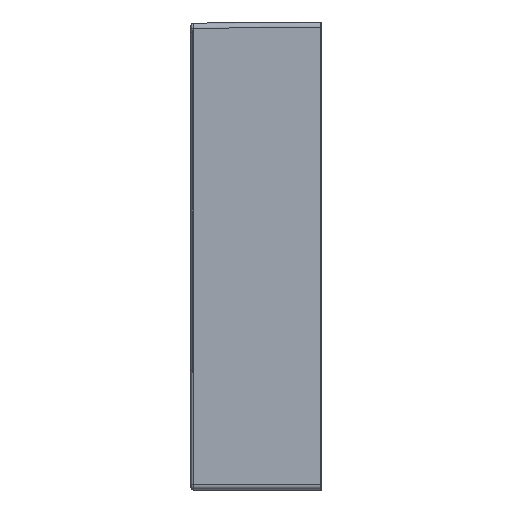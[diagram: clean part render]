
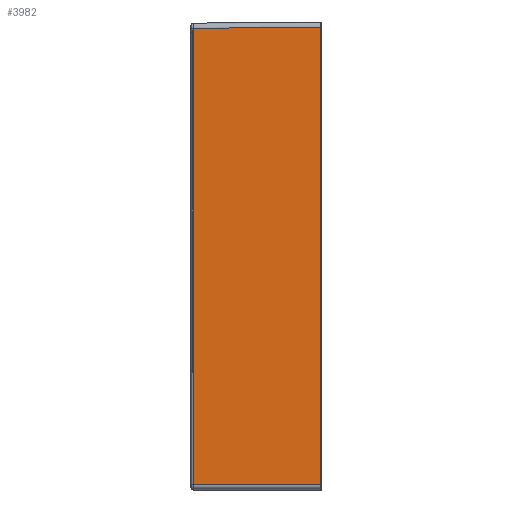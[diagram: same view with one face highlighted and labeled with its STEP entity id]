
A CAD part, left-side view. The second image highlights one B-rep face of the part: STEP entity #3982.
In plain terms, the highlighted planar face has unit normal (-1, 0.009, 0).
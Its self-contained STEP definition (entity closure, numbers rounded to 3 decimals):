
#41 = LINE ( 'NONE', #28316, #42663 ) ;
#1613 = DIRECTION ( 'NONE',  ( 0.009, 1., -0.009 ) ) ;
#2429 = AXIS2_PLACEMENT_3D ( 'NONE', #4416, #27898, #7796 ) ;
#3169 = ORIENTED_EDGE ( 'NONE', *, *, #32744, .T. ) ;
#3982 = ADVANCED_FACE ( 'NONE', ( #5989 ), #31143, .T. ) ;
#4218 = VERTEX_POINT ( 'NONE', #22766 ) ;
#4416 = CARTESIAN_POINT ( 'NONE',  ( -305., 125., -200. ) ) ;
#5989 = FACE_OUTER_BOUND ( 'NONE', #16052, .T. ) ;
#6384 = VERTEX_POINT ( 'NONE', #38500 ) ;
#6427 = VERTEX_POINT ( 'NONE', #8944 ) ;
#7796 = DIRECTION ( 'NONE',  ( -0.009, -1., 0. ) ) ;
#7948 = LINE ( 'NONE', #35826, #23732 ) ;
#8944 = CARTESIAN_POINT ( 'NONE',  ( -306.091, 0., 245. ) ) ;
#13521 = VECTOR ( 'NONE', #29928, 1000. ) ;
#13932 = DIRECTION ( 'NONE',  ( 0., 0., -1. ) ) ;
#15510 = LINE ( 'NONE', #23951, #32345 ) ;
#16052 = EDGE_LOOP ( 'NONE', ( #30337, #31500, #3169, #28722 ) ) ;
#17231 = EDGE_CURVE ( 'NONE', #4218, #6427, #22466, .T. ) ;
#20653 = EDGE_CURVE ( 'NONE', #6384, #41374, #15510, .T. ) ;
#22466 = LINE ( 'NONE', #36551, #13521 ) ;
#22766 = CARTESIAN_POINT ( 'NONE',  ( -306.091, 0., -195. ) ) ;
#23732 = VECTOR ( 'NONE', #29196, 1000. ) ;
#23951 = CARTESIAN_POINT ( 'NONE',  ( -305.017, 123.017, -195. ) ) ;
#27898 = DIRECTION ( 'NONE',  ( -1., 0.009, 0. ) ) ;
#28316 = CARTESIAN_POINT ( 'NONE',  ( -304.966, 128.873, 243.876 ) ) ;
#28722 = ORIENTED_EDGE ( 'NONE', *, *, #17231, .T. ) ;
#29196 = DIRECTION ( 'NONE',  ( -0.009, -1., 0. ) ) ;
#29928 = DIRECTION ( 'NONE',  ( 0., 0., 1. ) ) ;
#30337 = ORIENTED_EDGE ( 'NONE', *, *, #33794, .T. ) ;
#31143 = PLANE ( 'NONE',  #2429 ) ;
#31500 = ORIENTED_EDGE ( 'NONE', *, *, #20653, .T. ) ;
#32345 = VECTOR ( 'NONE', #13932, 1000. ) ;
#32744 = EDGE_CURVE ( 'NONE', #41374, #4218, #7948, .T. ) ;
#33794 = EDGE_CURVE ( 'NONE', #6427, #6384, #41, .T. ) ;
#35826 = CARTESIAN_POINT ( 'NONE',  ( -305., 125., -195. ) ) ;
#36551 = CARTESIAN_POINT ( 'NONE',  ( -306.091, 0., -200. ) ) ;
#38500 = CARTESIAN_POINT ( 'NONE',  ( -305.017, 123.017, 243.927 ) ) ;
#41374 = VERTEX_POINT ( 'NONE', #42179 ) ;
#42179 = CARTESIAN_POINT ( 'NONE',  ( -305.017, 123.017, -195. ) ) ;
#42663 = VECTOR ( 'NONE', #1613, 1000. ) ;
